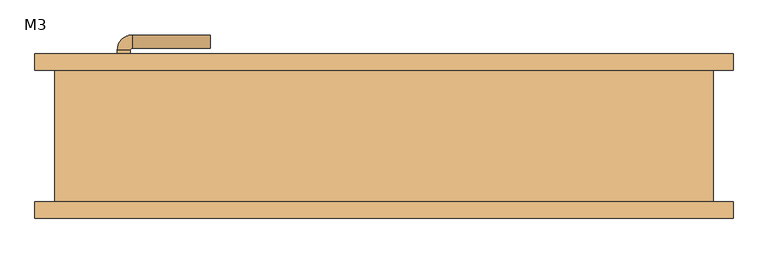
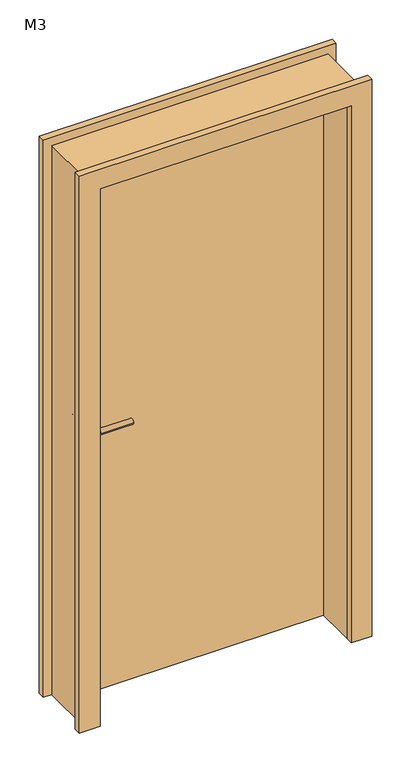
"""IFC4 building model written with IfcOpenShell, lengths in millimetres: door geometry, 单嵌板木门 1 : M3."""

import ifcopenshell
import ifcopenshell.guid

model = None  # the IFC model being written
_history = None  # IfcOwnerHistory: only IFC2X3 demands one
_inside = {}  # id of a spatial element -> (the spatial element, [elements in it])
_under = {}  # id of a project, library or spatial element -> (it, [spatial elements below it])
_declared = {}  # id of a project -> (the project, [libraries it declares])
_typed = {}  # id of a type object -> (the type object, [elements of that type])
_made_of = {}  # id of a material, layer set ... -> (it, [elements and type objects made of it])


def new_model(schema):
    """Start an empty IFC model of exactly this schema.

    Asked for "IFC4X3", IfcOpenShell would pick the latest addendum, in which some entities
    have other attributes; the version numbers below select the first issue.
    IFC2X3 requires an IfcOwnerHistory on every rooted entity: one is made here for all.
    """
    global model, _history
    if schema == "IFC4X3":
        model = ifcopenshell.file(schema_version=(4, 3, 0, 0))
    else:
        model = ifcopenshell.file(schema=schema)
    _inside.clear()
    _under.clear()
    _declared.clear()
    _typed.clear()
    _made_of.clear()
    _history = None
    if model.schema == "IFC2X3":
        org = make("IfcOrganization", Name="unknown")
        user = make(
            "IfcPersonAndOrganization",
            ThePerson=make("IfcPerson", FamilyName="unknown"),
            TheOrganization=org,
        )
        app = make(
            "IfcApplication",
            ApplicationDeveloper=org,
            Version="unknown",
            ApplicationFullName="unknown",
            ApplicationIdentifier="unknown",
        )
        _history = make(
            "IfcOwnerHistory",
            OwningUser=user,
            OwningApplication=app,
            ChangeAction="ADDED",
            CreationDate=0,
        )
    return model


def make(cls, **values):
    """One entity of the class cls with the attributes given. An attribute that is None is left unset."""
    return model.create_entity(
        cls, **{name: value for name, value in values.items() if value is not None}
    )


def rooted(cls, **values):
    """An entity with a GlobalId (a new one), such as an element, a storey or a relation."""
    return make(cls, GlobalId=ifcopenshell.guid.new(), OwnerHistory=_history, **values)


def si_unit(unit_type, name, prefix=None):
    """IfcSIUnit, for example si_unit("LENGTHUNIT", "METRE", prefix="MILLI")."""
    return make("IfcSIUnit", UnitType=unit_type, Prefix=prefix, Name=name)


def assignment(units):
    """IfcUnitAssignment: the units of a project."""
    return None if units is None else make("IfcUnitAssignment", Units=units)


def point(xyz):
    """IfcCartesianPoint."""
    return None if xyz is None else make("IfcCartesianPoint", Coordinates=xyz)


def direction(xyz):
    """IfcDirection."""
    return None if xyz is None else make("IfcDirection", DirectionRatios=xyz)


def frame(location, z_axis=None, x_axis=None):
    """IfcAxis2Placement3D, a coordinate frame: its origin and axes. An axis left out is left unset."""
    return make(
        "IfcAxis2Placement3D",
        Location=point(location),
        Axis=direction(z_axis),
        RefDirection=direction(x_axis),
    )


def frame_2d(location, x_axis=None):
    """IfcAxis2Placement2D, a coordinate frame in the plane: its origin and x axis."""
    return make(
        "IfcAxis2Placement2D", Location=point(location), RefDirection=direction(x_axis)
    )


def origin():
    """The frame at (0, 0, 0) with its axes left unset."""
    return frame((0.0, 0.0, 0.0))


def origin_with_axes():
    """The frame at (0, 0, 0) with the z axis (0, 0, 1) and the x axis (1, 0, 0) written out."""
    return frame((0.0, 0.0, 0.0), z_axis=(0.0, 0.0, 1.0), x_axis=(1.0, 0.0, 0.0))


def place(relative_to, where):
    """IfcLocalPlacement: puts the frame where relative to a parent placement (None: the world)."""
    return make(
        "IfcLocalPlacement", PlacementRelTo=relative_to, RelativePlacement=where
    )


def context(
    kind, dimensions, precision=None, world=None, true_north=None, identifier=None
):
    """IfcGeometricRepresentationContext, for example the 3D "Model" context."""
    return make(
        "IfcGeometricRepresentationContext",
        ContextIdentifier=identifier,
        ContextType=kind,
        CoordinateSpaceDimension=dimensions,
        Precision=precision,
        WorldCoordinateSystem=world,
        TrueNorth=true_north,
    )


def project(units=None, contexts=None):
    """IfcProject with its units and contexts."""
    return rooted(
        "IfcProject",
        Name="project",
        RepresentationContexts=contexts,
        UnitsInContext=assignment(units),
    )


def spatial(cls, under=None, at=None, **own):
    """A site, building, storey or space (cls), placed at a placement, below another one or the project."""
    s = rooted(cls, ObjectPlacement=at, **own)
    if under is not None:
        _under.setdefault(under.id(), (under, []))[1].append(s)
    return s


def polyline(points):
    """IfcPolyline through the points."""
    return make("IfcPolyline", Points=[point(p) for p in points])


def circle_curve(where, radius):
    """IfcCircle in the frame where."""
    return make("IfcCircle", Position=where, Radius=radius)


def ellipse_curve(where, semi_axis1, semi_axis2):
    """IfcEllipse in the frame where."""
    return make(
        "IfcEllipse", Position=where, SemiAxis1=semi_axis1, SemiAxis2=semi_axis2
    )


def trimmed(basis, trim1, trim2, sense, master):
    """IfcTrimmedCurve: the piece of a basis curve between two trims."""
    return make(
        "IfcTrimmedCurve",
        BasisCurve=basis,
        Trim1=trim1,
        Trim2=trim2,
        SenseAgreement=sense,
        MasterRepresentation=master,
    )


def segment(curve, same_sense, transition):
    """IfcCompositeCurveSegment."""
    return make(
        "IfcCompositeCurveSegment",
        Transition=transition,
        SameSense=same_sense,
        ParentCurve=curve,
    )


def composite_curve(segments, self_intersect=None):
    """IfcCompositeCurve: segments joined end to end."""
    return make("IfcCompositeCurve", Segments=segments, SelfIntersect=self_intersect)


def outline(outer, holes=None, kind="AREA"):
    """IfcArbitraryClosedProfileDef: a profile drawn as a closed curve; with holes, ...WithVoids."""
    if holes is None:
        return make("IfcArbitraryClosedProfileDef", ProfileType=kind, OuterCurve=outer)
    return make(
        "IfcArbitraryProfileDefWithVoids",
        ProfileType=kind,
        OuterCurve=outer,
        InnerCurves=holes,
    )


def extrude(swept, where, along, depth):
    """IfcExtrudedAreaSolid: the profile swept, set in the frame where, extruded along a direction by depth."""
    return make(
        "IfcExtrudedAreaSolid",
        SweptArea=swept,
        Position=where,
        ExtrudedDirection=direction(along),
        Depth=depth,
    )


def shape(context_of_items, identifier, shape_type, items):
    """IfcShapeRepresentation: the items that make up one representation, for example the "Body"."""
    return make(
        "IfcShapeRepresentation",
        ContextOfItems=context_of_items,
        RepresentationIdentifier=identifier,
        RepresentationType=shape_type,
        Items=items,
    )


def source(mapping_origin, context_of_items, identifier, shape_type, items):
    """IfcRepresentationMap: a shape defined once, which mapped items show again and again."""
    return make(
        "IfcRepresentationMap",
        MappingOrigin=mapping_origin,
        MappedRepresentation=shape(context_of_items, identifier, shape_type, items),
    )


def transform(
    local_origin,
    x_axis=None,
    y_axis=None,
    z_axis=None,
    scale=None,
    scale2=None,
    scale3=None,
    uniform=True,
):
    """IfcCartesianTransformationOperator3D, or its non-uniform kind. x_axis, y_axis, z_axis: its Axis1, 2, 3."""
    if uniform:
        return make(
            "IfcCartesianTransformationOperator3D",
            Axis1=direction(x_axis),
            Axis2=direction(y_axis),
            LocalOrigin=point(local_origin),
            Scale=scale,
            Axis3=direction(z_axis),
        )
    return make(
        "IfcCartesianTransformationOperator3DnonUniform",
        Axis1=direction(x_axis),
        Axis2=direction(y_axis),
        LocalOrigin=point(local_origin),
        Scale=scale,
        Axis3=direction(z_axis),
        Scale2=scale2,
        Scale3=scale3,
    )


def mapped(mapping_source, mapping_target):
    """IfcMappedItem: shows the shape of a source again, moved by a transform."""
    return make(
        "IfcMappedItem", MappingSource=mapping_source, MappingTarget=mapping_target
    )


def made_of(thing, what):
    """Note that an element or type object is made of a material, layer set ...; save() writes the relation."""
    if what is not None:
        _made_of.setdefault(what.id(), (what, []))[1].append(thing)
    return thing


def element(
    cls,
    number,
    at=None,
    inside=None,
    cuts=None,
    type_object=None,
    material=None,
    context=None,
    identifier="Body",
    shape_type=None,
    held_by="IfcProductDefinitionShape",
    body=None,
    shapes=None,
    **own,
):
    """One element of the class cls, such as IfcWall. Its Tag is "e" and its number.

    at: its placement. inside: the storey or other place that contains it. cuts: it is an
    opening in that element (IfcRelVoidsElement). A single representation is given by context,
    identifier, shape_type and body (its items); several are given by shapes. held_by: the class
    of the entity that holds the representations. save() writes the other relations.
    """
    e = rooted(cls, Tag="e%d" % number, ObjectPlacement=at, **own)
    if body is not None:
        shapes = [shape(context, identifier, shape_type, body)]
    if shapes is not None:
        e.Representation = make(held_by, Representations=shapes)
    if inside is not None:
        _inside.setdefault(inside.id(), (inside, []))[1].append(e)
    if cuts is not None:
        rooted(
            "IfcRelVoidsElement", RelatingBuildingElement=cuts, RelatedOpeningElement=e
        )
    if type_object is not None:
        _typed.setdefault(type_object.id(), (type_object, []))[1].append(e)
    return made_of(e, material)


def aggregate(whole, parts):
    """IfcRelAggregates: a whole, such as a stair, and the parts it consists of."""
    return rooted("IfcRelAggregates", RelatingObject=whole, RelatedObjects=parts)


def save(model, path):
    """Write the relations noted so far, then the file.

    IfcRelAggregates (storeys below a building ...), IfcRelContainedInSpatialStructure (elements
    in a storey), IfcRelDefinesByType, IfcRelAssociatesMaterial and IfcRelDeclares: one each for
    every whole, place, type object, material and project.
    """
    for whole, parts in _under.values():
        aggregate(whole, parts)
    for where, things in _inside.values():
        rooted(
            "IfcRelContainedInSpatialStructure",
            RelatedElements=things,
            RelatingStructure=where,
        )
    for kind, things in _typed.values():
        rooted("IfcRelDefinesByType", RelatedObjects=things, RelatingType=kind)
    for what, things in _made_of.values():
        rooted("IfcRelAssociatesMaterial", RelatedObjects=things, RelatingMaterial=what)
    for by, libraries in _declared.values():
        rooted("IfcRelDeclares", RelatingContext=by, RelatedDefinitions=libraries)
    model.write(path)


def plane_surface(at):
    """IfcPlane: the flat surface through the origin of the frame at, square to its z axis."""
    return make("IfcPlane", Position=at)


def cylinder_surface(at, radius):
    """IfcCylindricalSurface: all points at the distance radius from the z axis of the frame at."""
    return make("IfcCylindricalSurface", Position=at, Radius=radius)


def revolved_surface(curve, axis_point, axis_direction):
    """IfcSurfaceOfRevolution: the curve turned about the line through axis_point along axis_direction."""
    return make(
        "IfcSurfaceOfRevolution",
        SweptCurve=make("IfcArbitraryOpenProfileDef", ProfileType="CURVE", Curve=curve),
        AxisPosition=make("IfcAxis1Placement", Location=point(axis_point), Axis=direction(axis_direction)),
    )


def advanced_brep(points, edges, surfaces, faces):
    """IfcAdvancedBrep: a solid bounded by faces that lie on surfaces and meet in shared edges.

    An edge is (start, end): straight between two places in points (the first is 0);
    or (start, end, curve); or (start, end, curve, False) where it runs against its curve.
    A face is (place in surfaces, loops), or (place, loops, False) where it looks against
    its surface's normal. A loop lists edges by number (the first is 1), with a minus sign
    where the edge is run from its end to its start. The first loop is the outer one.
    """
    corners = [point(p) for p in points]
    vertices = [make("IfcVertexPoint", VertexGeometry=c) for c in corners]
    made = []
    for start, end, *more in edges:
        made.append(
            make(
                "IfcEdgeCurve",
                EdgeStart=vertices[start],
                EdgeEnd=vertices[end],
                EdgeGeometry=more[0] if more else make("IfcPolyline", Points=[corners[start], corners[end]]),
                SameSense=more[1] if len(more) > 1 else True,
            )
        )
    hull = []
    for where, loops, *sense in faces:
        bounds = []
        for j, loop in enumerate(loops):
            ring = [make("IfcOrientedEdge", EdgeElement=made[abs(k) - 1], Orientation=k > 0) for k in loop]
            bounds.append(
                make(
                    "IfcFaceOuterBound" if j == 0 else "IfcFaceBound",
                    Bound=make("IfcEdgeLoop", EdgeList=ring),
                    Orientation=True,
                )
            )
        hull.append(make("IfcAdvancedFace", Bounds=bounds, FaceSurface=surfaces[where], SameSense=sense[0] if sense else True))
    return make("IfcAdvancedBrep", Outer=make("IfcClosedShell", CfsFaces=hull))


def m3_c9bb6752(model_context):
    return source(origin(), model_context, "Body", "SolidModel", [
        extrude(outline(composite_curve([segment(trimmed(circle_curve(frame_2d((900.0, -395.0)), 25.0), [point((900.0, -370.0))], [point((900.0, -420.0))], False, "CARTESIAN"), True, "CONTINUOUS"), segment(trimmed(circle_curve(frame_2d((900.0, -395.0)), 25.0), [point((900.0, -420.0))], [point((900.0, -370.0))], False, "CARTESIAN"), True, "CONTINUOUS")], self_intersect=False)), frame((0.0, 40.0, 0.0), z_axis=(0.0, 1.0, 0.0), x_axis=(0.0, 0.0, 1.0)), (0.0, 0.0, 1.0), 10.0),
        extrude(outline(composite_curve([segment(trimmed(circle_curve(frame_2d((900.0, -395.0)), 25.0), [point((900.0, -370.0))], [point((900.0, -420.0))], False, "CARTESIAN"), True, "CONTINUOUS"), segment(trimmed(circle_curve(frame_2d((900.0, -395.0)), 25.0), [point((900.0, -420.0))], [point((900.0, -370.0))], False, "CARTESIAN"), True, "CONTINUOUS")], self_intersect=False)), frame((0.0, 100.0, 0.0), z_axis=(0.0, 1.0, 0.0), x_axis=(0.0, 0.0, 1.0)), (0.0, 0.0, 1.0), 10.0),
        advanced_brep(
        [(-405.0, 40.0, 1020.0), (-385.0, 40.0, 1020.0), (-385.0, 19.386645, 1020.0), (-405.0, 19.386645, 1020.0), (-263.419036, -3.580964, 1020.0), (-263.419036, 16.419036, 1020.0), (-382.0323911, 16.419036, 1020.0), (-382.0323911, -3.580964, 1020.0)],
        [
            (0, 1, circle_curve(frame((-395.0, 40.0, 1020.0), z_axis=(0.0, 1.0, 0.0), x_axis=(1.0, 0.0, 0.0)), 10.0)),
            (1, 0, circle_curve(frame((-395.0, 40.0, 1020.0), z_axis=(0.0, 1.0, 0.0), x_axis=(1.0, 0.0, 0.0)), 10.0)),
            (1, 2),
            (2, 3, circle_curve(frame((-395.0, 19.386645, 1020.0), z_axis=(0.0, 1.0, 0.0), x_axis=(1.0, 0.0, 0.0)), 10.0)),
            (3, 0),
            (3, 2, circle_curve(frame((-395.0, 19.386645, 1020.0), z_axis=(0.0, 1.0, 0.0), x_axis=(1.0, 0.0, 0.0)), 10.0)),
            (4, 5, circle_curve(frame((-263.419036, 6.419036, 1020.0), z_axis=(1.0, 0.0, 0.0), x_axis=(0.0, 1.0, 0.0)), 10.0)),
            (5, 4, circle_curve(frame((-263.419036, 6.419036, 1020.0), z_axis=(1.0, 0.0, 0.0), x_axis=(0.0, 1.0, 0.0)), 10.0)),
            (6, 2, circle_curve(frame((-382.0323911, 19.386645, 1020.0), z_axis=(0.0, 0.0, -1.0), x_axis=(-1.0, 0.0, 0.0)), 2.9676089)),
            (3, 7, circle_curve(frame((-382.0323911, 19.386645, 1020.0), z_axis=(0.0, 0.0, 1.0), x_axis=(-1.0, 0.0, 0.0)), 22.9676089)),
            (7, 6, circle_curve(frame((-382.0323911, 6.419036, 1020.0), z_axis=(-1.0, 0.0, 0.0), x_axis=(0.0, 1.0, 0.0)), 10.0)),
            (6, 7, circle_curve(frame((-382.0323911, 6.419036, 1020.0), z_axis=(-1.0, 0.0, 0.0), x_axis=(0.0, 1.0, 0.0)), 10.0)),
            (7, 4),
            (5, 6),
        ],
        [
            plane_surface(frame((-395.0, 40.0, 900.0), z_axis=(0.0, 1.0, 0.0), x_axis=(0.0, 0.0, 1.0))),
            cylinder_surface(frame((-395.0, 40.0, 1020.0), z_axis=(0.0, 1.0, 0.0), x_axis=(1.0, 0.0, 0.0)), 10.0),
            plane_surface(frame((-263.419036, 6.419036, 900.0), z_axis=(1.0, 0.0, 0.0), x_axis=(0.0, 0.0, 1.0))),
            revolved_surface(trimmed(ellipse_curve(frame((-395.0, 19.386645, 1020.0), z_axis=(0.0, 1.0, 0.0), x_axis=(1.0, 0.0, 0.0)), 10.0, 10.0), [point((-405.0, 19.386645, 1020.0))], [point((-385.0, 19.386645, 1020.0))], True, "CARTESIAN"), (-382.0323911, 19.386645, 900.0), (0.0, 0.0, 1.0)),
            revolved_surface(trimmed(ellipse_curve(frame((-395.0, 19.386645, 1020.0), z_axis=(0.0, 1.0, 0.0), x_axis=(1.0, 0.0, 0.0)), 10.0, 10.0), [point((-385.0, 19.386645, 1020.0))], [point((-405.0, 19.386645, 1020.0))], True, "CARTESIAN"), (-382.0323911, 19.386645, 900.0), (0.0, 0.0, 1.0)),
            cylinder_surface(frame((-382.0323911, 6.419036, 1020.0), z_axis=(-1.0, 0.0, 0.0), x_axis=(0.0, 1.0, 0.0)), 10.0),
        ],
        [
            (0, [[1, 2]]),
            (1, [[-2, 3, 4, 5]]),
            (1, [[-1, -5, 6, -3]]),
            (2, [[7, 8]]),
            (3, [[9, -6, 10, 11]]),
            (4, [[-10, -4, -9, 12]]),
            (5, [[-11, 13, -8, 14]]),
            (5, [[-12, -14, -7, -13]]),
        ],
    ),
        extrude(outline(composite_curve([segment(trimmed(circle_curve(frame_2d((1020.0, -395.0)), 25.0), [point((1020.0, -370.0))], [point((1020.0, -420.0))], False, "CARTESIAN"), True, "CONTINUOUS"), segment(trimmed(circle_curve(frame_2d((1020.0, -395.0)), 25.0), [point((1020.0, -420.0))], [point((1020.0, -370.0))], False, "CARTESIAN"), True, "CONTINUOUS")], self_intersect=False)), frame((0.0, 40.0, 0.0), z_axis=(0.0, 1.0, 0.0), x_axis=(0.0, 0.0, 1.0)), (0.0, 0.0, 1.0), 10.0),
        advanced_brep(
        [(-385.0, 110.0, 1020.0), (-405.0, 110.0, 1020.0), (-385.0, 130.6133551, 1020.0), (-405.0, 130.6133551, 1020.0), (-263.419036, 133.580964, 1020.0), (-263.419036, 153.580964, 1020.0), (-382.0323911, 153.580964, 1020.0), (-382.0323911, 133.580964, 1020.0)],
        [
            (0, 1, circle_curve(frame((-395.0, 110.0, 1020.0), z_axis=(0.0, -1.0, 0.0), x_axis=(-1.0, 0.0, 0.0)), 10.0)),
            (1, 0, circle_curve(frame((-395.0, 110.0, 1020.0), z_axis=(0.0, -1.0, 0.0), x_axis=(-1.0, 0.0, 0.0)), 10.0)),
            (0, 2),
            (2, 3, circle_curve(frame((-395.0, 130.6133551, 1020.0), z_axis=(0.0, -1.0, 0.0), x_axis=(-1.0, 0.0, 0.0)), 10.0)),
            (3, 1),
            (3, 2, circle_curve(frame((-395.0, 130.6133551, 1020.0), z_axis=(0.0, -1.0, 0.0), x_axis=(-1.0, 0.0, 0.0)), 10.0)),
            (4, 5, circle_curve(frame((-263.419036, 143.580964, 1020.0), z_axis=(1.0, 0.0, 0.0), x_axis=(0.0, 1.0, 0.0)), 10.0)),
            (5, 4, circle_curve(frame((-263.419036, 143.580964, 1020.0), z_axis=(1.0, 0.0, 0.0), x_axis=(0.0, 1.0, 0.0)), 10.0)),
            (6, 3, circle_curve(frame((-382.0323911, 130.6133551, 1020.0), z_axis=(0.0, 0.0, 1.0), x_axis=(-1.0, 0.0, 0.0)), 22.9676089)),
            (2, 7, circle_curve(frame((-382.0323911, 130.6133551, 1020.0), z_axis=(0.0, 0.0, -1.0), x_axis=(-1.0, 0.0, 0.0)), 2.9676089)),
            (7, 6, circle_curve(frame((-382.0323911, 143.580964, 1020.0), z_axis=(-1.0, 0.0, 0.0), x_axis=(0.0, 1.0, 0.0)), 10.0)),
            (6, 7, circle_curve(frame((-382.0323911, 143.580964, 1020.0), z_axis=(-1.0, 0.0, 0.0), x_axis=(0.0, 1.0, 0.0)), 10.0)),
            (7, 4),
            (5, 6),
        ],
        [
            plane_surface(frame((-395.0, 110.0, 900.0), z_axis=(0.0, -1.0, 0.0), x_axis=(0.0, 0.0, 1.0))),
            cylinder_surface(frame((-395.0, 110.0, 1020.0), z_axis=(0.0, -1.0, 0.0), x_axis=(-1.0, 0.0, 0.0)), 10.0),
            plane_surface(frame((-263.419036, 143.580964, 900.0), z_axis=(1.0, 0.0, 0.0), x_axis=(0.0, 0.0, 1.0))),
            revolved_surface(trimmed(ellipse_curve(frame((-395.0, 130.6133551, 1020.0), z_axis=(0.0, -1.0, 0.0), x_axis=(-1.0, 0.0, 0.0)), 10.0, 10.0), [point((-385.0, 130.6133551, 1020.0))], [point((-405.0, 130.6133551, 1020.0))], True, "CARTESIAN"), (-382.0323911, 130.6133551, 900.0), (0.0, 0.0, -1.0)),
            revolved_surface(trimmed(ellipse_curve(frame((-395.0, 130.6133551, 1020.0), z_axis=(0.0, -1.0, 0.0), x_axis=(-1.0, 0.0, 0.0)), 10.0, 10.0), [point((-405.0, 130.6133551, 1020.0))], [point((-385.0, 130.6133551, 1020.0))], True, "CARTESIAN"), (-382.0323911, 130.6133551, 900.0), (0.0, 0.0, -1.0)),
            cylinder_surface(frame((-382.0323911, 143.580964, 1020.0), z_axis=(-1.0, 0.0, 0.0), x_axis=(0.0, 1.0, 0.0)), 10.0),
        ],
        [
            (0, [[1, 2]]),
            (1, [[-1, 3, 4, 5]]),
            (1, [[-2, -5, 6, -3]]),
            (2, [[7, 8]]),
            (3, [[9, -4, 10, 11]]),
            (4, [[-10, -6, -9, 12]]),
            (5, [[-11, 13, -8, 14]]),
            (5, [[-12, -14, -7, -13]]),
        ],
    ),
        extrude(outline(composite_curve([segment(trimmed(circle_curve(frame_2d((1020.0, -395.0)), 25.0), [point((1020.0, -370.0))], [point((1020.0, -420.0))], False, "CARTESIAN"), True, "CONTINUOUS"), segment(trimmed(circle_curve(frame_2d((1020.0, -395.0)), 25.0), [point((1020.0, -420.0))], [point((1020.0, -370.0))], False, "CARTESIAN"), True, "CONTINUOUS")], self_intersect=False)), frame((0.0, 100.0, 0.0), z_axis=(0.0, 1.0, 0.0), x_axis=(0.0, 0.0, 1.0)), (0.0, 0.0, 1.0), 10.0),
        extrude(outline(polyline([(0.0, 530.0), (2130.0, 530.0), (2130.0, -530.0), (0.0, -530.0), (0.0, -455.0), (2055.0, -455.0), (2055.0, 455.0), (0.0, 455.0), (0.0, 530.0)])), frame((0.0, 100.0, 0.0), z_axis=(0.0, 1.0, 0.0), x_axis=(0.0, 0.0, 1.0)), (0.0, 0.0, 1.0), 25.0),
        extrude(outline(polyline([(2130.0, 530.0), (2130.0, -530.0), (0.0, -530.0), (0.0, -455.0), (2055.0, -455.0), (2055.0, 455.0), (0.0, 455.0), (0.0, 530.0), (2130.0, 530.0)])), frame((0.0, -125.0, 0.0), z_axis=(0.0, 1.0, 0.0), x_axis=(0.0, 0.0, 1.0)), (0.0, 0.0, 1.0), 25.0),
        extrude(outline(polyline([(455.0, 50.0), (-455.0, 50.0), (-455.0, 100.0), (455.0, 100.0), (455.0, 50.0)])), origin_with_axes(), (0.0, 0.0, 1.0), 2055.0),
        extrude(outline(polyline([(2100.0, -500.0), (0.0, -500.0), (0.0, -455.0), (2055.0, -455.0), (2055.0, 455.0), (0.0, 455.0), (0.0, 500.0), (2100.0, 500.0), (2100.0, -500.0)])), frame((0.0, -100.0, 0.0), z_axis=(0.0, 1.0, 0.0), x_axis=(0.0, 0.0, 1.0)), (0.0, 0.0, 1.0), 200.0),
    ])


if __name__ == "__main__":
    model = new_model("IFC4")
    model_context = context("Model", 3, world=origin())
    ifc_project = project(units=[si_unit("LENGTHUNIT", "METRE", prefix="MILLI")], contexts=[model_context])
    site = spatial("IfcSite", under=ifc_project)
    building = spatial("IfcBuilding", under=site)
    placement = place(None, origin())
    m3_shape = m3_c9bb6752(model_context)
    element("IfcDoor", 1, ObjectType="单嵌板木门 1 : M3", at=placement, inside=building, context=model_context, shape_type="MappedRepresentation", body=[
        mapped(m3_shape, transform((0.0, 0.0, 0.0), x_axis=(1.0, 0.0, 0.0), y_axis=(0.0, 1.0, 0.0), z_axis=(0.0, 0.0, 1.0))),
    ])
    save(model, "model.ifc")
